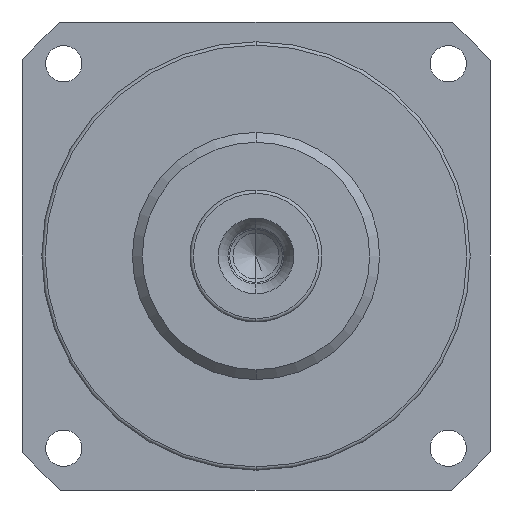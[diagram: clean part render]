
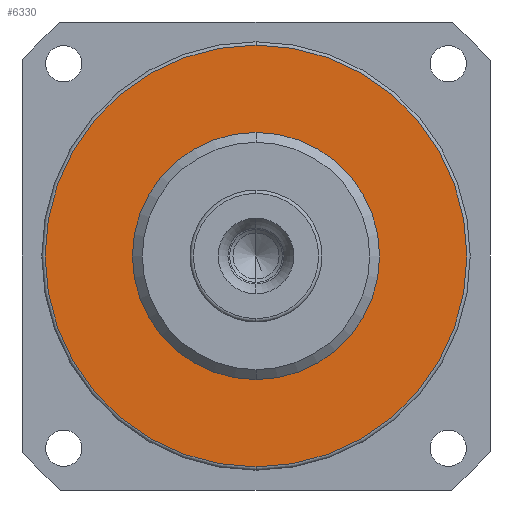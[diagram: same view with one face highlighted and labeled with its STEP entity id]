
A CAD part, left-side view. The second image highlights one B-rep face of the part: STEP entity #6330.
In plain terms, the highlighted planar face has unit normal (-1, 0, 0) as drawn and (0, 0, -1) by its records, which use the part's own axes.
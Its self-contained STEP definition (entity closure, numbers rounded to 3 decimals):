
#5149=CARTESIAN_POINT('',(0.,0.,-15.));
#5150=DIRECTION('',(0.,0.,1.));
#5151=DIRECTION('',(0.,-1.,0.));
#5152=AXIS2_PLACEMENT_3D('',#5149,#5150,#5151);
#5154=CARTESIAN_POINT('',(0.,0.,-15.));
#5155=DIRECTION('',(0.,0.,-1.));
#5156=DIRECTION('',(0.,-1.,0.));
#5157=AXIS2_PLACEMENT_3D('',#5154,#5155,#5156);
#5167=CARTESIAN_POINT('',(0.,0.,-15.));
#5168=DIRECTION('',(0.,0.,-1.));
#5169=DIRECTION('',(0.,-1.,0.));
#5170=AXIS2_PLACEMENT_3D('',#5167,#5168,#5169);
#5172=CARTESIAN_POINT('',(0.,0.,-15.));
#5173=DIRECTION('',(0.,0.,1.));
#5174=DIRECTION('',(0.,-1.,0.));
#5175=AXIS2_PLACEMENT_3D('',#5172,#5173,#5174);
#5328=CARTESIAN_POINT('',(0.,-64.,-15.));
#5330=VERTEX_POINT('',#5328);
#5331=CARTESIAN_POINT('',(0.,-37.5,-15.));
#5333=VERTEX_POINT('',#5331);
#5342=CARTESIAN_POINT('',(0.,64.,-15.));
#5344=VERTEX_POINT('',#5342);
#5345=CARTESIAN_POINT('',(0.,37.5,-15.));
#5347=VERTEX_POINT('',#5345);
#6315=CARTESIAN_POINT('',(0.,0.,-15.));
#6316=DIRECTION('',(0.,0.,1.));
#6317=DIRECTION('',(0.,1.,0.));
#6318=AXIS2_PLACEMENT_3D('',#6315,#6316,#6317);
#6319=PLANE('',#6318);
#6320=ORIENTED_EDGE('',*,*,#6310,.T.);
#6321=ORIENTED_EDGE('',*,*,#6294,.F.);
#6322=EDGE_LOOP('',(#6320,#6321));
#6323=FACE_OUTER_BOUND('',#6322,.F.);
#6325=ORIENTED_EDGE('',*,*,#6324,.T.);
#6327=ORIENTED_EDGE('',*,*,#6326,.F.);
#6328=EDGE_LOOP('',(#6325,#6327));
#6329=FACE_BOUND('',#6328,.F.);
#6330=ADVANCED_FACE('',(#6323,#6329),#6319,.F.);
#5153=CIRCLE('',#5152,64.);
#5158=CIRCLE('',#5157,64.);
#5171=CIRCLE('',#5170,37.5);
#5176=CIRCLE('',#5175,37.5);
#6294=EDGE_CURVE('',#5330,#5344,#5158,.T.);
#6310=EDGE_CURVE('',#5330,#5344,#5153,.T.);
#6324=EDGE_CURVE('',#5333,#5347,#5171,.T.);
#6326=EDGE_CURVE('',#5333,#5347,#5176,.T.);
